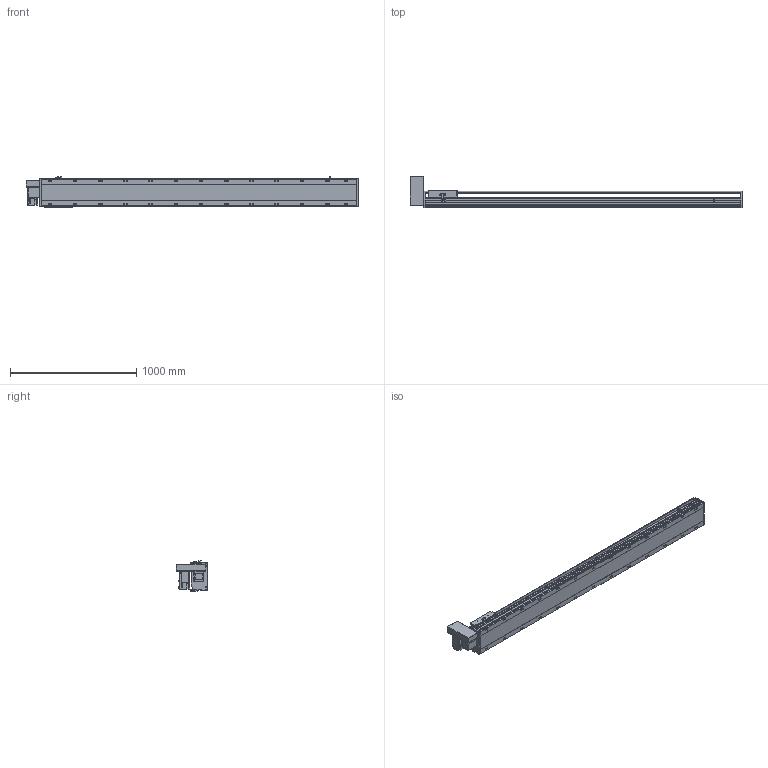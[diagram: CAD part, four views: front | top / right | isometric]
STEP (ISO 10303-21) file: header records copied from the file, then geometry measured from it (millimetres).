
FILE_DESCRIPTION(/* description */ ('STEP AP214'),/* implementation_level */ '2;1');
FILE_NAME(/* name */ 'PBS220-P40-S2150-RU-T75-C1-N(0)',/* time_stamp */ '2022-06-13T02:57:21+02:00',/* author */ ('License CC BY-ND 4.0'),/* organization */ ('CADENAS'),/* preprocessor_version */ 'ST-DEVELOPER v18.102',/* originating_system */ 'PARTsolutions',/* authorisation */ ' ');
FILE_SCHEMA (('AUTOMOTIVE_DESIGN {1 0 10303 214 3 1 1}'));
Length unit declared in the file: millimetre
Products named in the file (7): PBS220-P40-S2150-RU-T75-C1-N(0); PBS220_sensor; PBS220_plant; PBS220_sliser; T75-p1; PBS220T-RU_motors; PBS220-S2150()_body
Assembly tree (8 placements, depth 2):
  PBS220-P40-S2150-RU-T75-C1-N(0)
    PBS220_sensor  x3
    PBS220_plant
    PBS220_sliser
    T75-p1
    PBS220T-RU_motors
    PBS220-S2150()_body
Bounding box: 2634 x 247 x 238.5 mm (x, y, z)
Volume: 36945898 mm3; surface area: 3417962.1 mm2
Topology: 8 solids, 8 shells, 974 faces, 2536 edges, 1648 vertices
Faces by surface type: plane 618, cylinder 306, cone 50
Full cylindrical faces by diameter (mm): 2.013 x4, 4.5 x14, 4.917 x4, 6 x7, 6.647 x8, 8 x10, 8.376 x26, 8.5 x26, 10 x6, 14 x26, 38 x2, 40 x1, 70 x1
Entity records: 27189 total; most frequent: CARTESIAN_POINT 4822, DIRECTION 4725, ORIENTED_EDGE 4286, EDGE_CURVE 2143, AXIS2_PLACEMENT_3D 1685, VERTEX_POINT 1496, LINE 1355, VECTOR 1355
